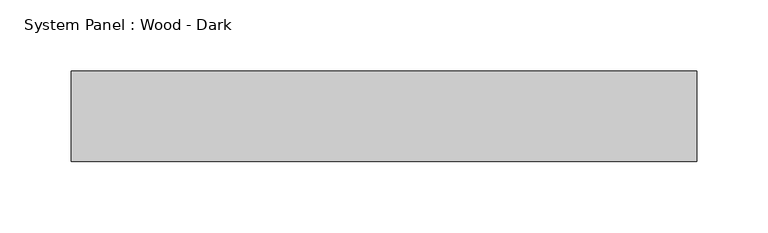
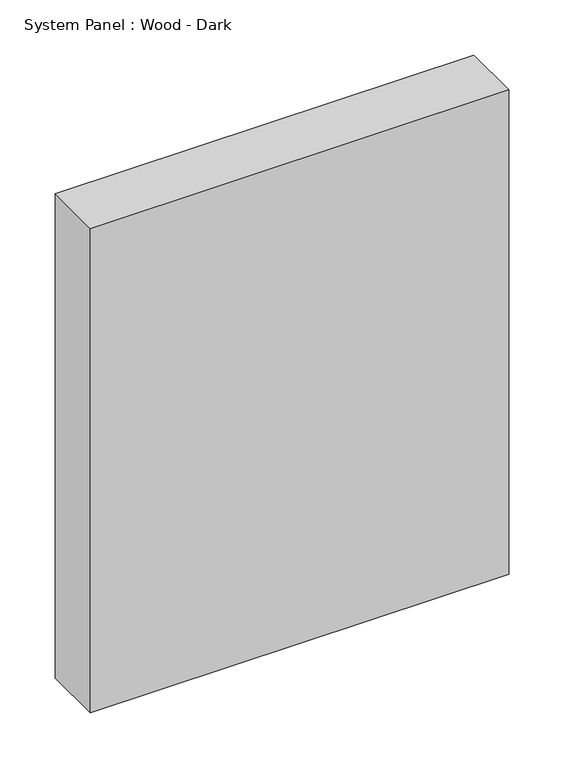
"""IFC4 building model written with IfcOpenShell, lengths in millimetres: plate geometry, System Panel : Wood - Dark."""

from ifc_helpers import new_model, si_unit, origin, origin_with_axes, place, context, project, spatial, polyline, outline, extrude, source, transform, mapped, element, save


def system_panel_wood_dark_d58a65b9(model_context):
    return source(origin(), model_context, "Body", "SweptSolid", [
        extrude(outline(polyline([(219.075, -44.45), (-219.075, -44.45), (-219.075, 19.05), (219.075, 19.05), (219.075, -44.45)])), origin_with_axes(), (0.0, 0.0, 1.0), 536.0475583),
    ])


if __name__ == "__main__":
    model = new_model("IFC4")
    model_context = context("Model", 3, world=origin())
    ifc_project = project(units=[si_unit("LENGTHUNIT", "METRE", prefix="MILLI")], contexts=[model_context])
    site = spatial("IfcSite", under=ifc_project)
    building = spatial("IfcBuilding", under=site)
    placement = place(None, origin())
    system_panel_wood_dark_shape = system_panel_wood_dark_d58a65b9(model_context)
    element("IfcPlate", 1, ObjectType="System Panel : Wood - Dark", at=placement, inside=building, context=model_context, shape_type="MappedRepresentation", body=[
        mapped(system_panel_wood_dark_shape, transform((0.0, 0.0, 0.0), x_axis=(1.0, 0.0, 0.0), y_axis=(0.0, 1.0, 0.0), z_axis=(0.0, 0.0, 1.0))),
    ])
    save(model, "model.ifc")
